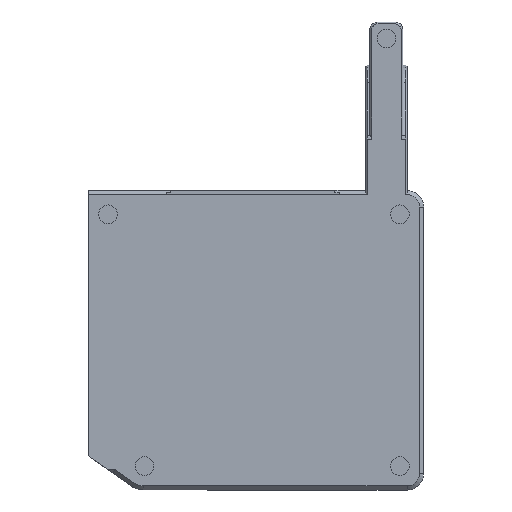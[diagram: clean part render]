
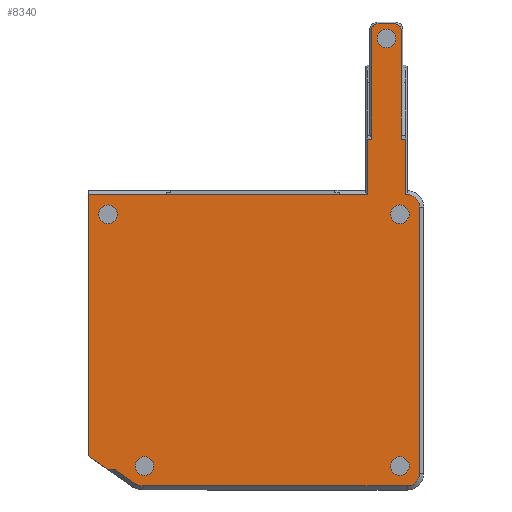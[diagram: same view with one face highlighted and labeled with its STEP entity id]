
A CAD part, top view. The second image highlights one B-rep face of the part: STEP entity #8340.
In plain terms, the highlighted planar face has unit normal (0, 0, 1).
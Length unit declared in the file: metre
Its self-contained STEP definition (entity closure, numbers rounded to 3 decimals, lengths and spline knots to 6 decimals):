
#255=CIRCLE('',#8896,0.0045);
#256=CIRCLE('',#8897,0.0045);
#257=CIRCLE('',#8898,0.008);
#258=CIRCLE('',#8899,0.006);
#259=CIRCLE('',#8900,0.006);
#260=CIRCLE('',#8901,0.0032);
#261=CIRCLE('',#8902,0.0032);
#262=CIRCLE('',#8903,0.0045);
#263=CIRCLE('',#8904,0.0045);
#264=CIRCLE('',#8905,0.0045);
#919=ORIENTED_EDGE('',*,*,#3328,.T.);
#920=ORIENTED_EDGE('',*,*,#3329,.F.);
#921=ORIENTED_EDGE('',*,*,#3330,.T.);
#922=ORIENTED_EDGE('',*,*,#3293,.T.);
#923=ORIENTED_EDGE('',*,*,#3331,.T.);
#924=ORIENTED_EDGE('',*,*,#3332,.T.);
#925=ORIENTED_EDGE('',*,*,#3211,.F.);
#926=ORIENTED_EDGE('',*,*,#3333,.T.);
#927=ORIENTED_EDGE('',*,*,#3334,.F.);
#928=ORIENTED_EDGE('',*,*,#3335,.T.);
#929=ORIENTED_EDGE('',*,*,#3336,.T.);
#930=ORIENTED_EDGE('',*,*,#3337,.T.);
#931=ORIENTED_EDGE('',*,*,#3338,.T.);
#932=ORIENTED_EDGE('',*,*,#3339,.T.);
#933=ORIENTED_EDGE('',*,*,#3340,.T.);
#934=ORIENTED_EDGE('',*,*,#3341,.T.);
#935=ORIENTED_EDGE('',*,*,#3342,.T.);
#936=ORIENTED_EDGE('',*,*,#3343,.T.);
#937=ORIENTED_EDGE('',*,*,#3344,.T.);
#938=ORIENTED_EDGE('',*,*,#3345,.T.);
#939=ORIENTED_EDGE('',*,*,#3346,.T.);
#940=ORIENTED_EDGE('',*,*,#3347,.T.);
#941=ORIENTED_EDGE('',*,*,#3348,.T.);
#942=ORIENTED_EDGE('',*,*,#3349,.F.);
#943=ORIENTED_EDGE('',*,*,#3350,.F.);
#944=ORIENTED_EDGE('',*,*,#3351,.F.);
#3211=EDGE_CURVE('',#4412,#4410,#5233,.T.);
#3293=EDGE_CURVE('',#4479,#4478,#5295,.F.);
#3328=EDGE_CURVE('',#4509,#4509,#255,.T.);
#3329=EDGE_CURVE('',#4510,#4510,#256,.T.);
#3330=EDGE_CURVE('',#4511,#4479,#5314,.T.);
#3331=EDGE_CURVE('',#4478,#4512,#5315,.T.);
#3332=EDGE_CURVE('',#4512,#4410,#5316,.T.);
#3333=EDGE_CURVE('',#4412,#4513,#5317,.T.);
#3334=EDGE_CURVE('',#4514,#4513,#5318,.T.);
#3335=EDGE_CURVE('',#4514,#4515,#5319,.T.);
#3336=EDGE_CURVE('',#4515,#4516,#5320,.T.);
#3337=EDGE_CURVE('',#4516,#4517,#5321,.T.);
#3338=EDGE_CURVE('',#4517,#4518,#257,.T.);
#3339=EDGE_CURVE('',#4518,#4519,#5322,.T.);
#3340=EDGE_CURVE('',#4519,#4520,#258,.T.);
#3341=EDGE_CURVE('',#4520,#4521,#5323,.T.);
#3342=EDGE_CURVE('',#4521,#4522,#259,.T.);
#3343=EDGE_CURVE('',#4522,#4523,#5324,.T.);
#3344=EDGE_CURVE('',#4523,#4524,#5325,.F.);
#3345=EDGE_CURVE('',#4524,#4525,#5326,.T.);
#3346=EDGE_CURVE('',#4525,#4526,#260,.T.);
#3347=EDGE_CURVE('',#4526,#4527,#5327,.T.);
#3348=EDGE_CURVE('',#4527,#4511,#261,.T.);
#3349=EDGE_CURVE('',#4528,#4528,#262,.T.);
#3350=EDGE_CURVE('',#4529,#4529,#263,.T.);
#3351=EDGE_CURVE('',#4530,#4530,#264,.T.);
#4410=VERTEX_POINT('',#12438);
#4412=VERTEX_POINT('',#12442);
#4478=VERTEX_POINT('',#12608);
#4479=VERTEX_POINT('',#12610);
#4509=VERTEX_POINT('',#12678);
#4510=VERTEX_POINT('',#12680);
#4511=VERTEX_POINT('',#12682);
#4512=VERTEX_POINT('',#12684);
#4513=VERTEX_POINT('',#12687);
#4514=VERTEX_POINT('',#12689);
#4515=VERTEX_POINT('',#12691);
#4516=VERTEX_POINT('',#12693);
#4517=VERTEX_POINT('',#12695);
#4518=VERTEX_POINT('',#12697);
#4519=VERTEX_POINT('',#12699);
#4520=VERTEX_POINT('',#12701);
#4521=VERTEX_POINT('',#12703);
#4522=VERTEX_POINT('',#12705);
#4523=VERTEX_POINT('',#12707);
#4524=VERTEX_POINT('',#12709);
#4525=VERTEX_POINT('',#12711);
#4526=VERTEX_POINT('',#12713);
#4527=VERTEX_POINT('',#12715);
#4528=VERTEX_POINT('',#12718);
#4529=VERTEX_POINT('',#12720);
#4530=VERTEX_POINT('',#12722);
#5233=LINE('',#12443,#6218);
#5295=LINE('',#12609,#6280);
#5314=LINE('',#12681,#6299);
#5315=LINE('',#12683,#6300);
#5316=LINE('',#12685,#6301);
#5317=LINE('',#12686,#6302);
#5318=LINE('',#12688,#6303);
#5319=LINE('',#12690,#6304);
#5320=LINE('',#12692,#6305);
#5321=LINE('',#12694,#6306);
#5322=LINE('',#12698,#6307);
#5323=LINE('',#12702,#6308);
#5324=LINE('',#12706,#6309);
#5325=LINE('',#12708,#6310);
#5326=LINE('',#12710,#6311);
#5327=LINE('',#12714,#6312);
#6218=VECTOR('',#9897,1.);
#6280=VECTOR('',#10019,1.);
#6299=VECTOR('',#10080,1.);
#6300=VECTOR('',#10081,1.);
#6301=VECTOR('',#10082,1.);
#6302=VECTOR('',#10083,1.);
#6303=VECTOR('',#10084,1.);
#6304=VECTOR('',#10085,1.);
#6305=VECTOR('',#10086,1.);
#6306=VECTOR('',#10087,1.);
#6307=VECTOR('',#10090,1.);
#6308=VECTOR('',#10093,1.);
#6309=VECTOR('',#10096,1.);
#6310=VECTOR('',#10097,1.);
#6311=VECTOR('',#10098,1.);
#6312=VECTOR('',#10101,1.);
#7017=EDGE_LOOP('',(#919));
#7018=EDGE_LOOP('',(#920));
#7019=EDGE_LOOP('',(#921,#922,#923,#924,#925,#926,#927,#928,#929,#930,#931,
#932,#933,#934,#935,#936,#937,#938,#939,#940,#941));
#7020=EDGE_LOOP('',(#942));
#7021=EDGE_LOOP('',(#943));
#7022=EDGE_LOOP('',(#944));
#7520=FACE_BOUND('',#7017,.T.);
#7521=FACE_BOUND('',#7018,.T.);
#7522=FACE_BOUND('',#7019,.T.);
#7523=FACE_BOUND('',#7020,.T.);
#7524=FACE_BOUND('',#7021,.T.);
#7525=FACE_BOUND('',#7022,.T.);
#8004=PLANE('',#8895);
#8340=ADVANCED_FACE('',(#7520,#7521,#7522,#7523,#7524,#7525),#8004,.T.);
#8895=AXIS2_PLACEMENT_3D('',#12676,#10074,#10075);
#8896=AXIS2_PLACEMENT_3D('',#12677,#10076,#10077);
#8897=AXIS2_PLACEMENT_3D('',#12679,#10078,#10079);
#8898=AXIS2_PLACEMENT_3D('',#12696,#10088,#10089);
#8899=AXIS2_PLACEMENT_3D('',#12700,#10091,#10092);
#8900=AXIS2_PLACEMENT_3D('',#12704,#10094,#10095);
#8901=AXIS2_PLACEMENT_3D('',#12712,#10099,#10100);
#8902=AXIS2_PLACEMENT_3D('',#12716,#10102,#10103);
#8903=AXIS2_PLACEMENT_3D('',#12717,#10104,#10105);
#8904=AXIS2_PLACEMENT_3D('',#12719,#10106,#10107);
#8905=AXIS2_PLACEMENT_3D('',#12721,#10108,#10109);
#9897=DIRECTION('',(1.,0.,0.));
#10019=DIRECTION('',(1.,0.,0.));
#10074=DIRECTION('',(0.,0.,1.));
#10075=DIRECTION('',(1.,0.,0.));
#10076=DIRECTION('',(0.,0.,-1.));
#10077=DIRECTION('',(1.,0.,0.));
#10078=DIRECTION('',(0.,0.,1.));
#10079=DIRECTION('',(1.,0.,0.));
#10080=DIRECTION('',(0.,-1.,0.));
#10081=DIRECTION('',(0.,-1.,0.));
#10082=DIRECTION('',(-1.,0.,0.));
#10083=DIRECTION('',(-1.,0.,0.));
#10084=DIRECTION('',(0.,1.,0.));
#10085=DIRECTION('',(0.819,-0.574,0.));
#10086=DIRECTION('',(1.,0.,0.));
#10087=DIRECTION('',(0.819,-0.574,0.));
#10088=DIRECTION('',(0.,0.,1.));
#10089=DIRECTION('',(1.,0.,0.));
#10090=DIRECTION('',(1.,0.,0.));
#10091=DIRECTION('',(0.,0.,1.));
#10092=DIRECTION('',(1.,0.,0.));
#10093=DIRECTION('',(0.,1.,0.));
#10094=DIRECTION('',(0.,0.,1.));
#10095=DIRECTION('',(1.,0.,0.));
#10096=DIRECTION('',(0.,1.,0.));
#10097=DIRECTION('',(1.,0.,0.));
#10098=DIRECTION('',(0.,1.,0.));
#10099=DIRECTION('',(0.,0.,1.));
#10100=DIRECTION('',(1.,0.,0.));
#10101=DIRECTION('',(-1.,0.,0.));
#10102=DIRECTION('',(0.,0.,1.));
#10103=DIRECTION('',(1.,0.,0.));
#10104=DIRECTION('',(0.,0.,1.));
#10105=DIRECTION('',(1.,0.,0.));
#10106=DIRECTION('',(0.,0.,1.));
#10107=DIRECTION('',(1.,0.,0.));
#10108=DIRECTION('',(0.,0.,1.));
#10109=DIRECTION('',(1.,0.,0.));
#12438=CARTESIAN_POINT('',(0.224127,0.06415,0.00825));
#12442=CARTESIAN_POINT('',(0.140827,0.06415,0.00825));
#12443=CARTESIAN_POINT('',(0.180977,0.06415,0.00825));
#12608=CARTESIAN_POINT('',(0.2378,0.090942,0.00825));
#12609=CARTESIAN_POINT('',(0.003,0.090942,0.00825));
#12610=CARTESIAN_POINT('',(0.2398,0.090942,0.00825));
#12676=CARTESIAN_POINT('',(0.,-0.006225,0.00825));
#12677=CARTESIAN_POINT('',(0.130051,-0.0671,0.00825));
#12678=CARTESIAN_POINT('',(0.134551,-0.0671,0.00825));
#12679=CARTESIAN_POINT('',(0.247,0.139586,0.00825));
#12680=CARTESIAN_POINT('',(0.2515,0.139586,0.00825));
#12681=CARTESIAN_POINT('',(0.2398,0.090942,0.00825));
#12682=CARTESIAN_POINT('',(0.2398,0.143586,0.00825));
#12683=CARTESIAN_POINT('',(0.2378,0.06415,0.00825));
#12684=CARTESIAN_POINT('',(0.2378,0.06415,0.00825));
#12685=CARTESIAN_POINT('',(0.222127,0.06415,0.00825));
#12686=CARTESIAN_POINT('',(0.102932,0.06415,0.00825));
#12687=CARTESIAN_POINT('',(0.102932,0.06415,0.00825));
#12688=CARTESIAN_POINT('',(0.102932,0.002,0.00825));
#12689=CARTESIAN_POINT('',(0.102932,-0.06215,0.00825));
#12690=CARTESIAN_POINT('',(0.108922,-0.066344,0.00825));
#12691=CARTESIAN_POINT('',(0.112144,-0.0686,0.00825));
#12692=CARTESIAN_POINT('',(0.113485,-0.0686,0.00825));
#12693=CARTESIAN_POINT('',(0.115631,-0.0686,0.00825));
#12694=CARTESIAN_POINT('',(0.12499,-0.075153,0.00825));
#12695=CARTESIAN_POINT('',(0.12499,-0.075153,0.00825));
#12696=CARTESIAN_POINT('',(0.129578,-0.0686,0.00825));
#12697=CARTESIAN_POINT('',(0.129578,-0.0766,0.00825));
#12698=CARTESIAN_POINT('',(0.,-0.0766,0.00825));
#12699=CARTESIAN_POINT('',(0.257,-0.0766,0.00825));
#12700=CARTESIAN_POINT('',(0.257,-0.0706,0.00825));
#12701=CARTESIAN_POINT('',(0.263,-0.0706,0.00825));
#12702=CARTESIAN_POINT('',(0.263,0.05815,0.00825));
#12703=CARTESIAN_POINT('',(0.263,0.05815,0.00825));
#12704=CARTESIAN_POINT('',(0.257,0.05815,0.00825));
#12705=CARTESIAN_POINT('',(0.2562,0.064096,0.00825));
#12706=CARTESIAN_POINT('',(0.2562,-0.006225,0.00825));
#12707=CARTESIAN_POINT('',(0.2562,0.090942,0.00825));
#12708=CARTESIAN_POINT('',(0.003,0.090942,0.00825));
#12709=CARTESIAN_POINT('',(0.2542,0.090942,0.00825));
#12710=CARTESIAN_POINT('',(0.2542,-0.006225,0.00825));
#12711=CARTESIAN_POINT('',(0.2542,0.143586,0.00825));
#12712=CARTESIAN_POINT('',(0.251,0.143586,0.00825));
#12713=CARTESIAN_POINT('',(0.251,0.146786,0.00825));
#12714=CARTESIAN_POINT('',(0.,0.146786,0.00825));
#12715=CARTESIAN_POINT('',(0.243,0.146786,0.00825));
#12716=CARTESIAN_POINT('',(0.243,0.143586,0.00825));
#12717=CARTESIAN_POINT('',(0.112432,0.05465,0.00825));
#12718=CARTESIAN_POINT('',(0.116932,0.05465,0.00825));
#12719=CARTESIAN_POINT('',(0.2535,-0.0671,0.00825));
#12720=CARTESIAN_POINT('',(0.258,-0.0671,0.00825));
#12721=CARTESIAN_POINT('',(0.2535,0.05465,0.00825));
#12722=CARTESIAN_POINT('',(0.258,0.05465,0.00825));
